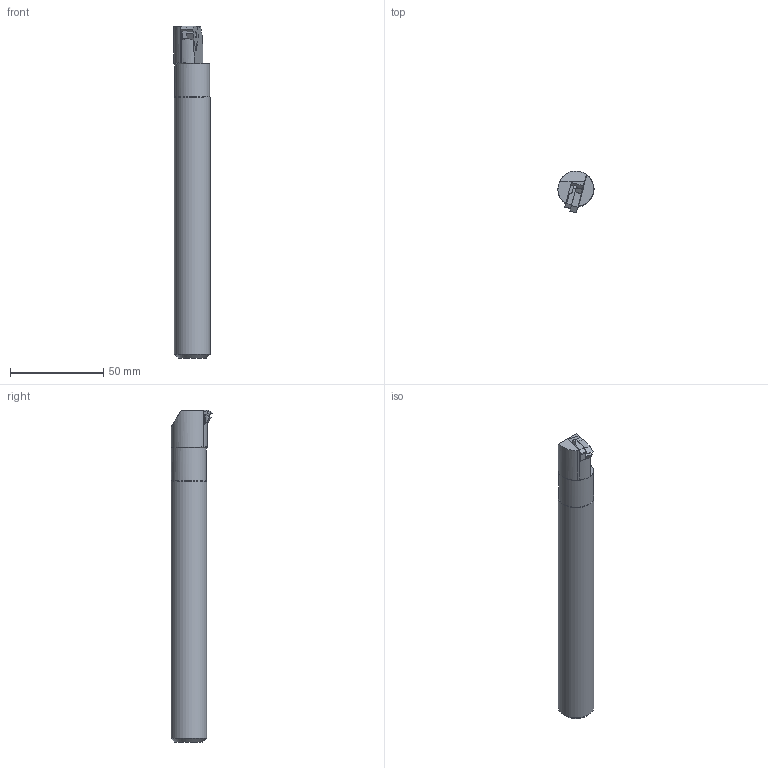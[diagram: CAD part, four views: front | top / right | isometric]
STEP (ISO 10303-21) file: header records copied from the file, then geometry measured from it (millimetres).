
FILE_DESCRIPTION (( 'STEP AP203' ), '1' );
FILE_NAME ('IRH075-16.STEP', '2020-11-06T09:06:24', ( '' ), ( '' ), 'SwSTEP 2.0', 'SolidWorks 2015', '' );
FILE_SCHEMA (( 'CONFIG_CONTROL_DESIGN' ));
Length unit declared in the file: millimetre
Products named in the file (5): IRH075-16_ル遽; IRH075-16; IR16_ル遽; ATI16_ル遽
Assembly tree (4 placements, depth 3):
  IRH075-16
    IRH075-16
      IRH075-16_ル遽
      ATI16_ル遽
      IR16_ル遽
Bounding box: 19.31 x 22.47 x 177.8 mm (x, y, z)
Volume: 48525.7 mm3; surface area: 11700 mm2
Topology: 3 solids, 3 shells, 58 faces, 147 edges, 95 vertices
Faces by surface type: plane 39, cylinder 14, cone 5
Full cylindrical faces by diameter (mm): 3.5 x1, 3.95 x1, 18.75 x1, 19.05 x1
Entity records: 2284 total; most frequent: CARTESIAN_POINT 389, DIRECTION 291, ORIENTED_EDGE 278, EDGE_CURVE 139, VECTOR 99, LINE 99, AXIS2_PLACEMENT_3D 96, VERTEX_POINT 94
